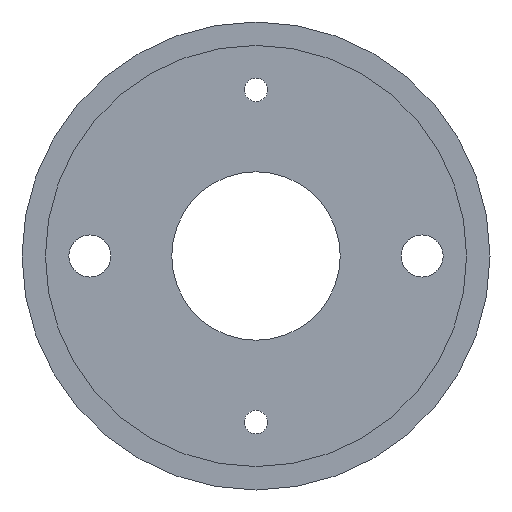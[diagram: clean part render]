
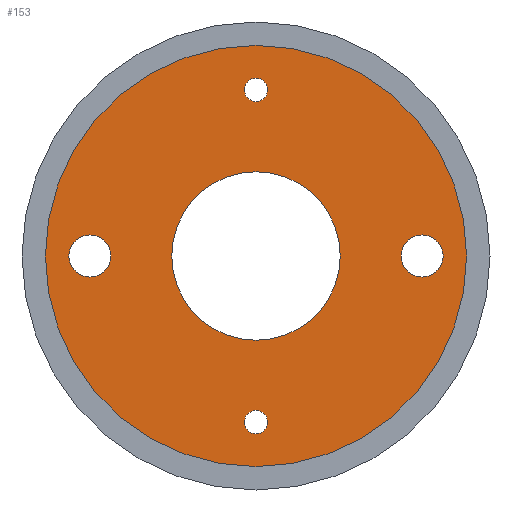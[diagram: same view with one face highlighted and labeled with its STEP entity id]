
A CAD part, front view. The second image highlights one B-rep face of the part: STEP entity #153.
In plain terms, the highlighted planar face has unit normal (0, -1, 0).
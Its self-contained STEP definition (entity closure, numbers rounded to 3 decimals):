
#8 = CARTESIAN_POINT ( 'NONE',  ( 0., 0., 0. ) ) ;
#12 = EDGE_CURVE ( 'NONE', #33, #83, #701, .T. ) ;
#14 = DIRECTION ( 'NONE',  ( 0., 0., -1. ) ) ;
#29 = DIRECTION ( 'NONE',  ( 0., 1., 0. ) ) ;
#33 = VERTEX_POINT ( 'NONE', #653 ) ;
#49 = CIRCLE ( 'NONE', #641, 18. ) ;
#64 = EDGE_CURVE ( 'NONE', #125, #553, #368, .T. ) ;
#69 = DIRECTION ( 'NONE',  ( 0., 0., -1. ) ) ;
#83 = VERTEX_POINT ( 'NONE', #351 ) ;
#84 = DIRECTION ( 'NONE',  ( 0., 0., -1. ) ) ;
#92 = AXIS2_PLACEMENT_3D ( 'NONE', #137, #759, #348 ) ;
#96 = CARTESIAN_POINT ( 'NONE',  ( 0., 0., -38. ) ) ;
#98 = CARTESIAN_POINT ( 'NONE',  ( 0., 0., 35.5 ) ) ;
#108 = CARTESIAN_POINT ( 'NONE',  ( 0., 0., 45. ) ) ;
#125 = VERTEX_POINT ( 'NONE', #108 ) ;
#127 = EDGE_LOOP ( 'NONE', ( #685, #686 ) ) ;
#128 = FACE_OUTER_BOUND ( 'NONE', #890, .T. ) ;
#131 = CARTESIAN_POINT ( 'NONE',  ( 0., 0., -35.5 ) ) ;
#137 = CARTESIAN_POINT ( 'NONE',  ( 35.5, 0., 0. ) ) ;
#148 = DIRECTION ( 'NONE',  ( 0., -1., 0. ) ) ;
#153 = ADVANCED_FACE ( 'NONE', ( #765, #415, #196, #851, #128, #891 ), #666, .T. ) ;
#156 = EDGE_CURVE ( 'NONE', #884, #806, #536, .T. ) ;
#175 = CARTESIAN_POINT ( 'NONE',  ( -35.5, 0., 0. ) ) ;
#196 = FACE_BOUND ( 'NONE', #280, .T. ) ;
#201 = EDGE_CURVE ( 'NONE', #729, #735, #49, .T. ) ;
#206 = DIRECTION ( 'NONE',  ( 0., 1., 0. ) ) ;
#229 = ORIENTED_EDGE ( 'NONE', *, *, #343, .T. ) ;
#244 = ORIENTED_EDGE ( 'NONE', *, *, #858, .F. ) ;
#246 = EDGE_CURVE ( 'NONE', #688, #630, #648, .T. ) ;
#250 = CARTESIAN_POINT ( 'NONE',  ( 18., 0., 0. ) ) ;
#254 = DIRECTION ( 'NONE',  ( 0., -1., 0. ) ) ;
#263 = CIRCLE ( 'NONE', #92, 4.5 ) ;
#271 = EDGE_CURVE ( 'NONE', #806, #884, #587, .T. ) ;
#280 = EDGE_LOOP ( 'NONE', ( #427, #819 ) ) ;
#289 = ORIENTED_EDGE ( 'NONE', *, *, #838, .T. ) ;
#290 = CARTESIAN_POINT ( 'NONE',  ( -35.5, 0., -4.5 ) ) ;
#320 = DIRECTION ( 'NONE',  ( 0., 1., 0. ) ) ;
#325 = CARTESIAN_POINT ( 'NONE',  ( 0., 0., 0. ) ) ;
#326 = DIRECTION ( 'NONE',  ( 0., 1., 0. ) ) ;
#338 = CARTESIAN_POINT ( 'NONE',  ( 0., 0., -45. ) ) ;
#343 = EDGE_CURVE ( 'NONE', #83, #33, #820, .T. ) ;
#345 = ORIENTED_EDGE ( 'NONE', *, *, #542, .T. ) ;
#348 = DIRECTION ( 'NONE',  ( 0., 0., 1. ) ) ;
#349 = EDGE_LOOP ( 'NONE', ( #345, #543 ) ) ;
#351 = CARTESIAN_POINT ( 'NONE',  ( 0., 0., 38. ) ) ;
#355 = DIRECTION ( 'NONE',  ( 0., -1., 0. ) ) ;
#368 = CIRCLE ( 'NONE', #665, 45. ) ;
#403 = CARTESIAN_POINT ( 'NONE',  ( -35.5, 0., 0. ) ) ;
#415 = FACE_BOUND ( 'NONE', #563, .T. ) ;
#420 = AXIS2_PLACEMENT_3D ( 'NONE', #828, #206, #888 ) ;
#427 = ORIENTED_EDGE ( 'NONE', *, *, #271, .T. ) ;
#428 = DIRECTION ( 'NONE',  ( 0., -1., 0. ) ) ;
#435 = AXIS2_PLACEMENT_3D ( 'NONE', #742, #326, #792 ) ;
#453 = AXIS2_PLACEMENT_3D ( 'NONE', #797, #320, #767 ) ;
#458 = CARTESIAN_POINT ( 'NONE',  ( 35.5, 0., 4.5 ) ) ;
#459 = DIRECTION ( 'NONE',  ( 0., 0., -1. ) ) ;
#475 = CIRCLE ( 'NONE', #762, 18. ) ;
#478 = CARTESIAN_POINT ( 'NONE',  ( -35.5, 0., 4.5 ) ) ;
#484 = CIRCLE ( 'NONE', #420, 4.5 ) ;
#485 = AXIS2_PLACEMENT_3D ( 'NONE', #131, #612, #874 ) ;
#487 = CARTESIAN_POINT ( 'NONE',  ( 35.5, 0., -4.5 ) ) ;
#495 = EDGE_CURVE ( 'NONE', #630, #688, #550, .T. ) ;
#496 = AXIS2_PLACEMENT_3D ( 'NONE', #98, #29, #719 ) ;
#505 = AXIS2_PLACEMENT_3D ( 'NONE', #839, #428, #14 ) ;
#522 = AXIS2_PLACEMENT_3D ( 'NONE', #250, #254, #594 ) ;
#525 = DIRECTION ( 'NONE',  ( 0., 0., 1. ) ) ;
#532 = CARTESIAN_POINT ( 'NONE',  ( 0., 0., -33. ) ) ;
#536 = CIRCLE ( 'NONE', #590, 4.5 ) ;
#542 = EDGE_CURVE ( 'NONE', #601, #823, #484, .T. ) ;
#543 = ORIENTED_EDGE ( 'NONE', *, *, #777, .T. ) ;
#549 = EDGE_LOOP ( 'NONE', ( #614, #244 ) ) ;
#550 = CIRCLE ( 'NONE', #485, 2.5 ) ;
#553 = VERTEX_POINT ( 'NONE', #338 ) ;
#562 = CARTESIAN_POINT ( 'NONE',  ( 0., 0., 0. ) ) ;
#563 = EDGE_LOOP ( 'NONE', ( #229, #728 ) ) ;
#587 = CIRCLE ( 'NONE', #732, 4.5 ) ;
#590 = AXIS2_PLACEMENT_3D ( 'NONE', #175, #861, #525 ) ;
#594 = DIRECTION ( 'NONE',  ( 0., 0., -1. ) ) ;
#601 = VERTEX_POINT ( 'NONE', #458 ) ;
#612 = DIRECTION ( 'NONE',  ( 0., 1., 0. ) ) ;
#614 = ORIENTED_EDGE ( 'NONE', *, *, #201, .F. ) ;
#630 = VERTEX_POINT ( 'NONE', #96 ) ;
#641 = AXIS2_PLACEMENT_3D ( 'NONE', #325, #870, #459 ) ;
#648 = CIRCLE ( 'NONE', #453, 2.5 ) ;
#653 = CARTESIAN_POINT ( 'NONE',  ( 0., 0., 33. ) ) ;
#665 = AXIS2_PLACEMENT_3D ( 'NONE', #8, #355, #69 ) ;
#666 = PLANE ( 'NONE',  #522 ) ;
#685 = ORIENTED_EDGE ( 'NONE', *, *, #246, .T. ) ;
#686 = ORIENTED_EDGE ( 'NONE', *, *, #495, .T. ) ;
#688 = VERTEX_POINT ( 'NONE', #532 ) ;
#701 = CIRCLE ( 'NONE', #496, 2.5 ) ;
#719 = DIRECTION ( 'NONE',  ( 0., 0., 1. ) ) ;
#728 = ORIENTED_EDGE ( 'NONE', *, *, #12, .T. ) ;
#729 = VERTEX_POINT ( 'NONE', #764 ) ;
#732 = AXIS2_PLACEMENT_3D ( 'NONE', #403, #880, #744 ) ;
#735 = VERTEX_POINT ( 'NONE', #833 ) ;
#742 = CARTESIAN_POINT ( 'NONE',  ( 0., 0., 35.5 ) ) ;
#744 = DIRECTION ( 'NONE',  ( 0., 0., 1. ) ) ;
#759 = DIRECTION ( 'NONE',  ( 0., 1., 0. ) ) ;
#762 = AXIS2_PLACEMENT_3D ( 'NONE', #562, #148, #84 ) ;
#764 = CARTESIAN_POINT ( 'NONE',  ( 0., 0., -18. ) ) ;
#765 = FACE_BOUND ( 'NONE', #127, .T. ) ;
#767 = DIRECTION ( 'NONE',  ( 0., 0., 1. ) ) ;
#777 = EDGE_CURVE ( 'NONE', #823, #601, #263, .T. ) ;
#792 = DIRECTION ( 'NONE',  ( 0., 0., 1. ) ) ;
#797 = CARTESIAN_POINT ( 'NONE',  ( 0., 0., -35.5 ) ) ;
#806 = VERTEX_POINT ( 'NONE', #478 ) ;
#819 = ORIENTED_EDGE ( 'NONE', *, *, #156, .T. ) ;
#820 = CIRCLE ( 'NONE', #435, 2.5 ) ;
#823 = VERTEX_POINT ( 'NONE', #487 ) ;
#828 = CARTESIAN_POINT ( 'NONE',  ( 35.5, 0., 0. ) ) ;
#833 = CARTESIAN_POINT ( 'NONE',  ( 0., 0., 18. ) ) ;
#838 = EDGE_CURVE ( 'NONE', #553, #125, #841, .T. ) ;
#839 = CARTESIAN_POINT ( 'NONE',  ( 0., 0., 0. ) ) ;
#841 = CIRCLE ( 'NONE', #505, 45. ) ;
#851 = FACE_BOUND ( 'NONE', #349, .T. ) ;
#858 = EDGE_CURVE ( 'NONE', #735, #729, #475, .T. ) ;
#861 = DIRECTION ( 'NONE',  ( 0., 1., 0. ) ) ;
#870 = DIRECTION ( 'NONE',  ( 0., -1., 0. ) ) ;
#873 = ORIENTED_EDGE ( 'NONE', *, *, #64, .T. ) ;
#874 = DIRECTION ( 'NONE',  ( 0., 0., 1. ) ) ;
#880 = DIRECTION ( 'NONE',  ( 0., 1., 0. ) ) ;
#884 = VERTEX_POINT ( 'NONE', #290 ) ;
#888 = DIRECTION ( 'NONE',  ( 0., 0., 1. ) ) ;
#890 = EDGE_LOOP ( 'NONE', ( #289, #873 ) ) ;
#891 = FACE_BOUND ( 'NONE', #549, .T. ) ;
